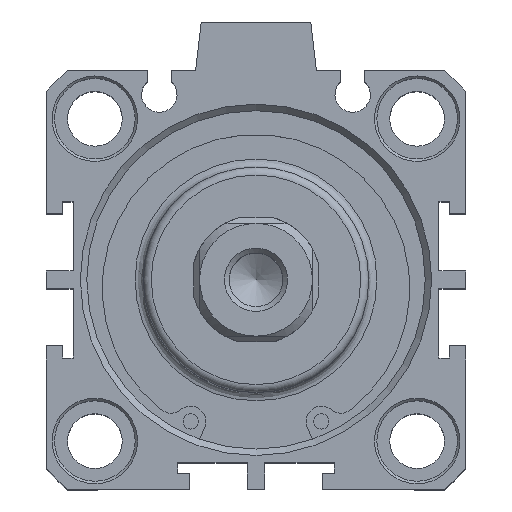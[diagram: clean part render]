
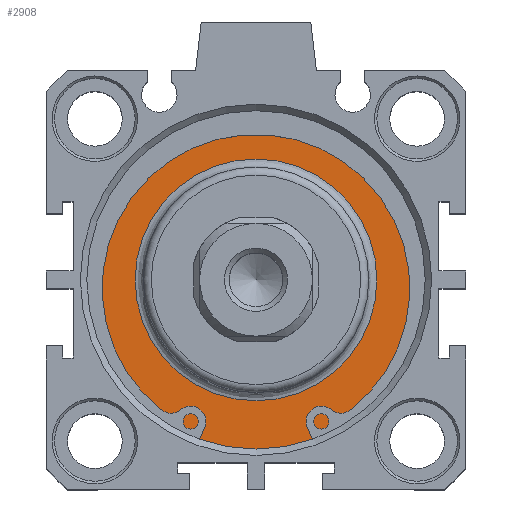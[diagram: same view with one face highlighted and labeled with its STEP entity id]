
A CAD part, top view. The second image highlights one B-rep face of the part: STEP entity #2908.
In plain terms, the highlighted planar face has unit normal (0, 0, 1).
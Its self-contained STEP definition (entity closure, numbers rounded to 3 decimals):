
#2857=CARTESIAN_POINT('',(0.598,16.555,42.4));
#2858=VERTEX_POINT('',#2857);
#2859=CARTESIAN_POINT('',(0.598,1.555,42.4));
#2860=DIRECTION('',(0.0,0.0,1.0));
#2861=DIRECTION('',(0.0,-1.0,0.0));
#2862=AXIS2_PLACEMENT_3D('',#2859,#2860,#2861);
#2863=CIRCLE('',#2862,15.);
#2864=EDGE_CURVE('',#2858,#2858,#2863,.T.);
#2889=CARTESIAN_POINT('',(0.598,19.055,42.4));
#2890=DIRECTION('',(0.0,0.0,1.0));
#2891=DIRECTION('',(1.0,0.0,0.0));
#2892=AXIS2_PLACEMENT_3D('',#2889,#2890,#2891);
#2893=PLANE('',#2892);
#2894=CARTESIAN_POINT('',(0.598,22.555,42.4));
#2895=VERTEX_POINT('',#2894);
#2896=CARTESIAN_POINT('',(0.598,1.555,42.4));
#2897=DIRECTION('',(0.0,0.0,-1.0));
#2898=DIRECTION('',(0.0,1.0,0.0));
#2899=AXIS2_PLACEMENT_3D('',#2896,#2897,#2898);
#2900=CIRCLE('',#2899,21.);
#2901=EDGE_CURVE('',#2895,#2895,#2900,.T.);
#2902=ORIENTED_EDGE('',*,*,#2901,.F.);
#2903=EDGE_LOOP('',(#2902));
#2904=FACE_OUTER_BOUND('',#2903,.T.);
#2905=ORIENTED_EDGE('',*,*,#2864,.F.);
#2906=EDGE_LOOP('',(#2905));
#2907=FACE_BOUND('',#2906,.T.);
#2908=ADVANCED_FACE('',(#2904,#2907),#2893,.T.);
